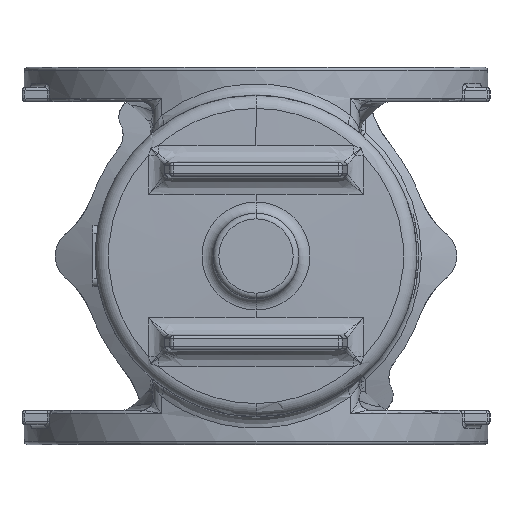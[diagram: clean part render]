
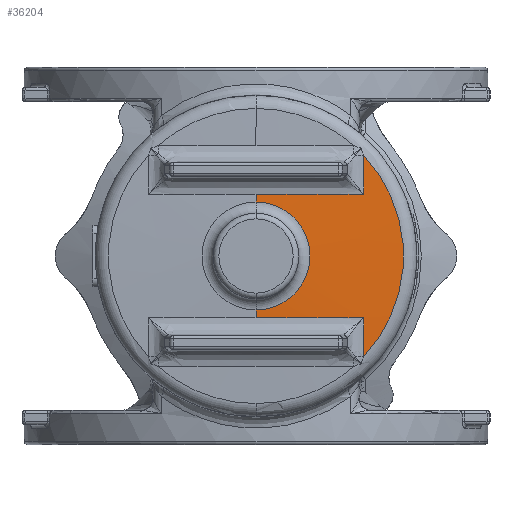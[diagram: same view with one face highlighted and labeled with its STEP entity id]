
A CAD part, front view. The second image highlights one B-rep face of the part: STEP entity #36204.
In plain terms, the highlighted conical face has half-angle 88 degrees and reference radius 140.5 mm.
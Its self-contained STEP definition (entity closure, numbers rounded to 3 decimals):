
#124 = CARTESIAN_POINT ( 'NONE',  ( 78.286, -230.589, 54.004 ) ) ;
#326 = VERTEX_POINT ( 'NONE', #19892 ) ;
#404 = AXIS2_PLACEMENT_3D ( 'NONE', #1115, #4047, #12139 ) ;
#831 = CARTESIAN_POINT ( 'NONE',  ( 0., -232.26, 47.151 ) ) ;
#1115 = CARTESIAN_POINT ( 'NONE',  ( 0., -229.404, 0. ) ) ;
#1166 = CARTESIAN_POINT ( 'NONE',  ( 62.631, -231.024, -53.959 ) ) ;
#1884 = CARTESIAN_POINT ( 'NONE',  ( 78.286, -230.589, -54.004 ) ) ;
#3235 = DIRECTION ( 'NONE',  ( 0., 0.035, 0.999 ) ) ;
#3616 = DIRECTION ( 'NONE',  ( 0., 1., 0. ) ) ;
#3684 = VERTEX_POINT ( 'NONE', #24555 ) ;
#4047 = DIRECTION ( 'NONE',  ( 0., -1., 0. ) ) ;
#4284 = CARTESIAN_POINT ( 'NONE',  ( 94.106, -229.404, -88.115 ) ) ;
#4842 = CARTESIAN_POINT ( 'NONE',  ( 0., -229., -140.5 ) ) ;
#5747 = CARTESIAN_POINT ( 'NONE',  ( 93.94, -230.122, -54.039 ) ) ;
#6213 = ORIENTED_EDGE ( 'NONE', *, *, #13209, .T. ) ;
#6724 = CARTESIAN_POINT ( 'NONE',  ( 0., -232.26, 0. ) ) ;
#6744 = DIRECTION ( 'NONE',  ( 0., 1., 0. ) ) ;
#6788 = EDGE_CURVE ( 'Defeatured_0_304+Defeatured_0_219+Defeatured_0_449+Defeatured_0_218', #3684, #22632, #30983, .T. ) ;
#6854 = CARTESIAN_POINT ( 'NONE',  ( 0., -232.028, -53.777 ) ) ;
#6872 = EDGE_CURVE ( 'Defeatured_0_304+Defeatured_0_449+Defeatured_0_220+Defeatured_0_219', #27764, #3684, #29648, .T. ) ;
#7064 = CARTESIAN_POINT ( 'NONE',  ( 94.047, -229.677, 76.757 ) ) ;
#8375 = EDGE_CURVE ( 'Defeatured_0_304+Defeatured_0_218+Defeatured_0_219+Defeatured_0_217', #22632, #19890, #21022, .T. ) ;
#8402 = CARTESIAN_POINT ( 'NONE',  ( 62.632, -231.024, 53.959 ) ) ;
#8954 = CARTESIAN_POINT ( 'NONE',  ( 54.804, -231.229, 53.934 ) ) ;
#9620 = CARTESIAN_POINT ( 'NONE',  ( 93.989, -229.923, -65.398 ) ) ;
#9644 = CARTESIAN_POINT ( 'NONE',  ( 0., -232.028, 53.777 ) ) ;
#11337 = CARTESIAN_POINT ( 'NONE',  ( 15.662, -231.966, 53.795 ) ) ;
#11387 = EDGE_CURVE ( 'Defeatured_0_304+Defeatured_0_221+Defeatured_0_222+Defeatured_0_220', #24619, #14089, #26116, .T. ) ;
#12139 = DIRECTION ( 'NONE',  ( 0., 0., -1. ) ) ;
#13209 = EDGE_CURVE ( 'Defeatured_0_304+Defeatured_0_216+Defeatured_0_216+Defeatured_0_216', #19103, #326, #30363, .T. ) ;
#13890 = CARTESIAN_POINT ( 'NONE',  ( 86.113, -230.359, 54.023 ) ) ;
#14089 = VERTEX_POINT ( 'NONE', #5747 ) ;
#14493 = CARTESIAN_POINT ( 'NONE',  ( 94.106, -229.404, -88.115 ) ) ;
#14617 = CARTESIAN_POINT ( 'NONE',  ( 31.32, -231.746, 53.846 ) ) ;
#15104 = CARTESIAN_POINT ( 'NONE',  ( 93.94, -230.122, -54.039 ) ) ;
#16976 = CARTESIAN_POINT ( 'NONE',  ( 39.149, -231.59, 53.877 ) ) ;
#17028 = ORIENTED_EDGE ( 'NONE', *, *, #6788, .T. ) ;
#17063 = EDGE_LOOP ( 'NONE', ( #6213, #19994, #30733, #31759, #33125, #17028, #22106, #35056 ) ) ;
#17659 = CARTESIAN_POINT ( 'NONE',  ( 94.047, -229.677, -76.757 ) ) ;
#17865 = DIRECTION ( 'NONE',  ( 0., 0., 1. ) ) ;
#17998 = CARTESIAN_POINT ( 'NONE',  ( 93.94, -230.122, -54.039 ) ) ;
#19103 = VERTEX_POINT ( 'NONE', #831 ) ;
#19266 = DIRECTION ( 'NONE',  ( 0., 0.035, -0.999 ) ) ;
#19890 = VERTEX_POINT ( 'NONE', #9644 ) ;
#19892 = CARTESIAN_POINT ( 'NONE',  ( 0., -232.26, -47.151 ) ) ;
#19942 = CARTESIAN_POINT ( 'NONE',  ( 0., -232.028, -53.777 ) ) ;
#19994 = ORIENTED_EDGE ( 'NONE', *, *, #34123, .T. ) ;
#20080 = CARTESIAN_POINT ( 'NONE',  ( 0., -229., 140.5 ) ) ;
#20243 = CARTESIAN_POINT ( 'NONE',  ( 93.989, -229.923, 65.398 ) ) ;
#20420 = CARTESIAN_POINT ( 'NONE',  ( 94.106, -229.404, 88.115 ) ) ;
#20553 = CONICAL_SURFACE ( 'NONE', #35723, 140.5, 1.536 ) ;
#20635 = CARTESIAN_POINT ( 'NONE',  ( 0., -229., 0. ) ) ;
#21022 = B_SPLINE_CURVE_WITH_KNOTS ( 'NONE', 3,
 ( #25578, #13890, #124, #8402, #8954, #16976, #14617, #11337, #22472, #25227 ),
 .UNSPECIFIED., .F., .F.,
 ( 4, 2, 2, 2, 4 ),
 ( 0., 0.023, 0.047, 0.07, 0.094 ),
 .UNSPECIFIED. ) ;
#21039 = VECTOR ( 'NONE', #19266, 1000. ) ;
#21470 = CARTESIAN_POINT ( 'NONE',  ( 86.113, -230.359, -54.023 ) ) ;
#22106 = ORIENTED_EDGE ( 'NONE', *, *, #8375, .T. ) ;
#22472 = CARTESIAN_POINT ( 'NONE',  ( 7.832, -232.028, 53.777 ) ) ;
#22632 = VERTEX_POINT ( 'NONE', #31377 ) ;
#24555 = CARTESIAN_POINT ( 'NONE',  ( 94.106, -229.404, 88.115 ) ) ;
#24619 = VERTEX_POINT ( 'NONE', #19942 ) ;
#25227 = CARTESIAN_POINT ( 'NONE',  ( 0., -232.028, 53.777 ) ) ;
#25578 = CARTESIAN_POINT ( 'NONE',  ( 93.94, -230.122, 54.039 ) ) ;
#26094 = CARTESIAN_POINT ( 'NONE',  ( 93.94, -230.122, 54.039 ) ) ;
#26116 = B_SPLINE_CURVE_WITH_KNOTS ( 'NONE', 3,
 ( #6854, #32610, #35176, #32438, #34980, #32074, #1166, #1884, #21470, #17998 ),
 .UNSPECIFIED., .F., .F.,
 ( 4, 2, 2, 2, 4 ),
 ( 0.094, 0.117, 0.141, 0.164, 0.188 ),
 .UNSPECIFIED. ) ;
#26192 = VECTOR ( 'NONE', #3235, 1000. ) ;
#27764 = VERTEX_POINT ( 'NONE', #14493 ) ;
#28301 = LINE ( 'NONE', #20080, #26192 ) ;
#29040 = DIRECTION ( 'NONE',  ( 0., 0., 1. ) ) ;
#29182 = AXIS2_PLACEMENT_3D ( 'NONE', #6724, #3616, #17865 ) ;
#29408 = EDGE_CURVE ( 'NONE', #19103, #19890, #28301, .T. ) ;
#29648 = CIRCLE ( 'NONE', #404, 128.919 ) ;
#29677 = B_SPLINE_CURVE_WITH_KNOTS ( 'NONE', 3,
 ( #15104, #9620, #17659, #4284 ),
 .UNSPECIFIED., .F., .F.,
 ( 4, 4 ),
 ( 0., 0.034 ),
 .UNSPECIFIED. ) ;
#29899 = LINE ( 'NONE', #4842, #21039 ) ;
#30363 = CIRCLE ( 'NONE', #29182, 47.151 ) ;
#30733 = ORIENTED_EDGE ( 'NONE', *, *, #11387, .T. ) ;
#30983 = B_SPLINE_CURVE_WITH_KNOTS ( 'NONE', 3,
 ( #20420, #7064, #20243, #26094 ),
 .UNSPECIFIED., .F., .F.,
 ( 4, 4 ),
 ( 0.009, 0.043 ),
 .UNSPECIFIED. ) ;
#31377 = CARTESIAN_POINT ( 'NONE',  ( 93.94, -230.122, 54.039 ) ) ;
#31759 = ORIENTED_EDGE ( 'NONE', *, *, #32999, .T. ) ;
#32074 = CARTESIAN_POINT ( 'NONE',  ( 54.804, -231.229, -53.934 ) ) ;
#32438 = CARTESIAN_POINT ( 'NONE',  ( 31.319, -231.746, -53.846 ) ) ;
#32610 = CARTESIAN_POINT ( 'NONE',  ( 7.831, -232.028, -53.777 ) ) ;
#32999 = EDGE_CURVE ( 'Defeatured_0_304+Defeatured_0_220+Defeatured_0_221+Defeatured_0_449', #14089, #27764, #29677, .T. ) ;
#33125 = ORIENTED_EDGE ( 'NONE', *, *, #6872, .T. ) ;
#34123 = EDGE_CURVE ( 'NONE', #326, #24619, #29899, .T. ) ;
#34518 = FACE_OUTER_BOUND ( 'NONE', #17063, .T. ) ;
#34980 = CARTESIAN_POINT ( 'NONE',  ( 39.147, -231.59, -53.877 ) ) ;
#35056 = ORIENTED_EDGE ( 'NONE', *, *, #29408, .F. ) ;
#35176 = CARTESIAN_POINT ( 'NONE',  ( 15.661, -231.966, -53.795 ) ) ;
#35723 = AXIS2_PLACEMENT_3D ( 'NONE', #20635, #6744, #29040 ) ;
#36204 = ADVANCED_FACE ( 'Defeatured_0_304', ( #34518 ), #20553, .T. ) ;
